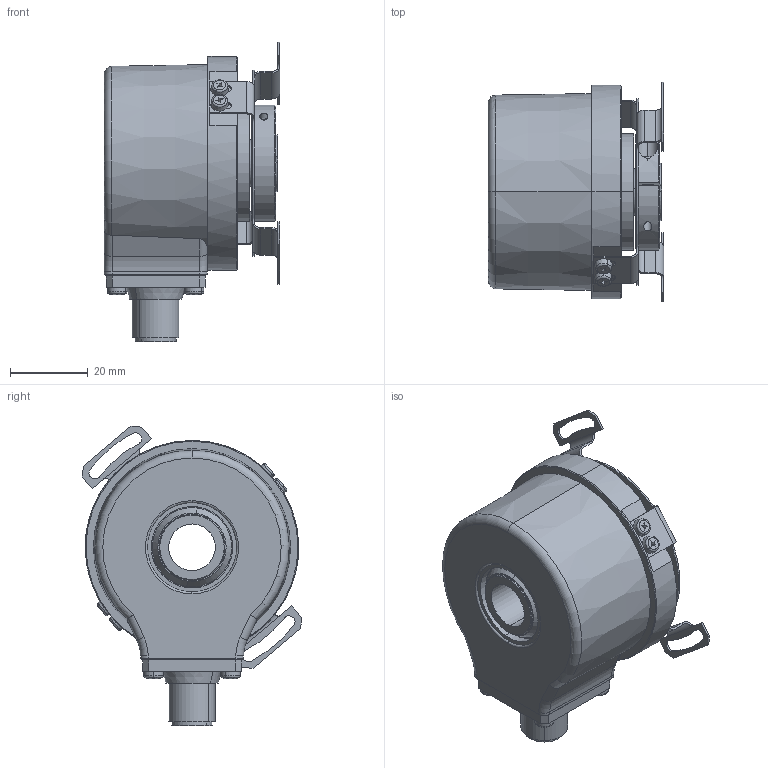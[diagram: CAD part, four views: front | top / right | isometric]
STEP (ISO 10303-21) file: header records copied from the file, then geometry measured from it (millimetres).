
FILE_DESCRIPTION (( 'STEP AP214' ), '1' );
FILE_NAME ('5020.D5X2.XXXX.STEP', '2010-07-16T06:07:23', ( 'admin' ), ( 'Fritz Kübler GmbH' ), 'SwSTEP 2.0', 'SolidWorks 2009', '' );
FILE_SCHEMA (( 'AUTOMOTIVE_DESIGN' ));
Length unit declared in the file: millimetre
Products named in the file (1): 5020.D5X2.XXXX
Bounding box: 45.2 x 56.46 x 77.19 mm (x, y, z)
Surface area: 21081.1 mm2 (no closed solid volume)
Topology: 0 solids, 27 shells, 418 faces, 1171 edges, 757 vertices
Faces by surface type: plane 198, cylinder 129, cone 33, torus 30, sphere 24, bspline 4
Entity records: 18201 total; most frequent: CARTESIAN_POINT 2843, DIRECTION 2379, ORIENTED_EDGE 2041, EDGE_CURVE 1139, AXIS2_PLACEMENT_3D 889, VERTEX_POINT 741, VECTOR 601, LINE 601
